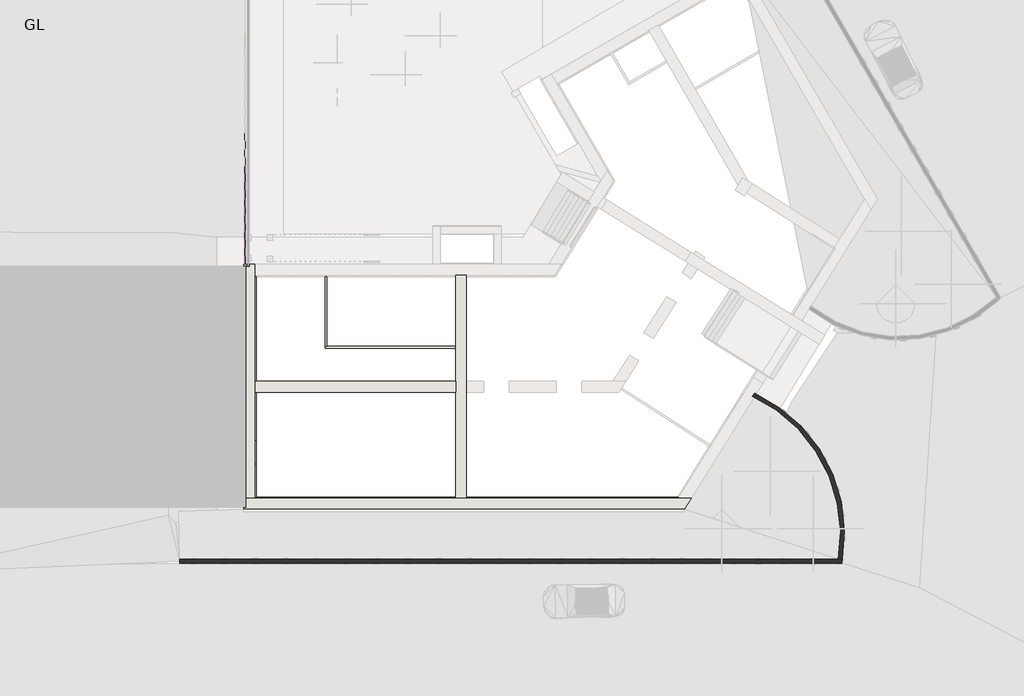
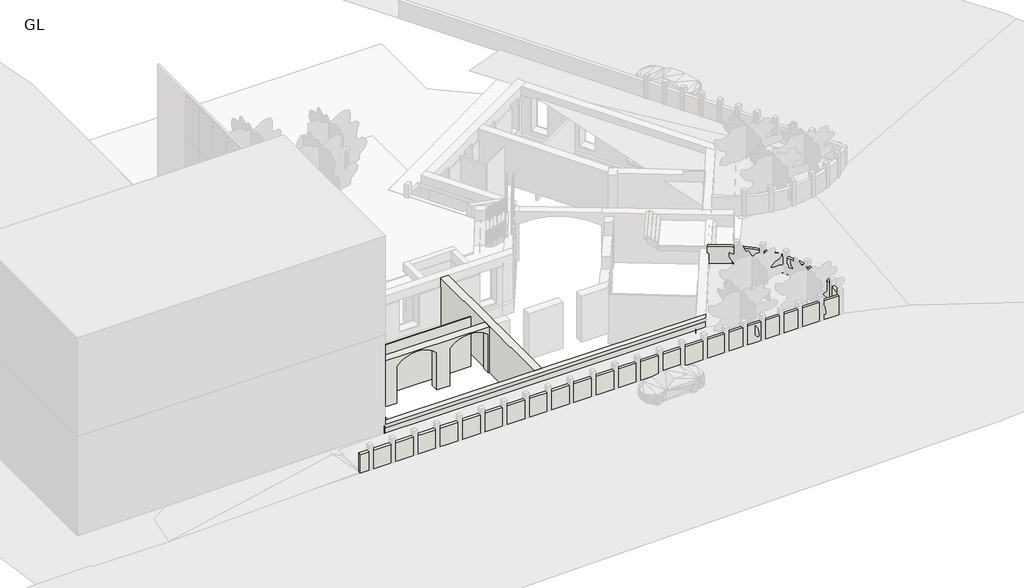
# One storey, part 1 of 6: 38 walls, 11 plates.
"""IFC4 building model written with IfcOpenShell, lengths in millimetres."""

from ifc_helpers import new_model, si_unit, point, frame, frame_2d, origin, place, context, project, spatial, polyline, circle_curve, trimmed, segment, composite_curve, outline, extrude, faceted_brep, transform, mapped, element, save
from ifc_brep_helpers import plane_surface, cylinder_surface, revolved_surface, advanced_brep
from components import system_panel_glazed_66cf68f7, system_panel_glazed_80cdc29d

model = new_model("IFC4")

# Units and contexts
model_context = context("Model", 3, world=origin())
ifc_project = project(units=[si_unit("LENGTHUNIT", "METRE", prefix="MILLI")], contexts=[model_context])

# Site, building, storey
site = spatial("IfcSite", under=ifc_project)
building = spatial("IfcBuilding", under=site)
storey = spatial("IfcBuildingStorey", under=building, Name="GL", Elevation=0.0)

# Plates
placement = place(None, origin())
system_panel_glazed_shape = system_panel_glazed_66cf68f7(model_context)
element("IfcPlate", 1, ObjectType="System Panel : Glazed", at=placement, inside=storey, context=model_context, shape_type="MappedRepresentation", body=[
    mapped(system_panel_glazed_shape, transform((-13331.6874983, 10505.0288256, 0.0), x_axis=(0.0, 1.0, 0.0), y_axis=(-1.0, 0.0, 0.0), z_axis=(0.0, 0.0, 1.0))),
])
element("IfcPlate", 2, ObjectType="System Panel : Glazed", at=placement, inside=storey, context=model_context, shape_type="MappedRepresentation", body=[
    mapped(system_panel_glazed_shape, transform((-13331.6874983, 12335.0288257, 0.0), x_axis=(0.0, 1.0, 0.0), y_axis=(-1.0, 0.0, 0.0), z_axis=(0.0, 0.0, 1.0))),
])
element("IfcPlate", 3, ObjectType="System Panel : Glazed", at=placement, inside=storey, context=model_context, shape_type="MappedRepresentation", body=[
    mapped(system_panel_glazed_shape, transform((-13331.6874983, 14165.0288257, 0.0), x_axis=(0.0, 1.0, 0.0), y_axis=(-1.0, 0.0, 0.0), z_axis=(0.0, 0.0, 1.0))),
])
element("IfcPlate", 4, ObjectType="System Panel : Glazed", at=placement, inside=storey, context=model_context, shape_type="MappedRepresentation", body=[
    mapped(system_panel_glazed_shape, transform((-13331.6874983, 15995.0288257, 0.0), x_axis=(0.0, 1.0, 0.0), y_axis=(-1.0, 0.0, 0.0), z_axis=(0.0, 0.0, 1.0))),
])
element("IfcPlate", 5, ObjectType="System Panel : Glazed", at=placement, inside=storey, context=model_context, shape_type="MappedRepresentation", body=[
    mapped(system_panel_glazed_shape, transform((-13331.6874983, 10505.0288256, 4000.0), x_axis=(0.0, 1.0, 0.0), y_axis=(-1.0, 0.0, 0.0), z_axis=(0.0, 0.0, 1.0))),
])
element("IfcPlate", 6, ObjectType="System Panel : Glazed", at=placement, inside=storey, context=model_context, shape_type="MappedRepresentation", body=[
    mapped(system_panel_glazed_shape, transform((-13331.6874983, 12335.0288257, 4000.0), x_axis=(0.0, 1.0, 0.0), y_axis=(-1.0, 0.0, 0.0), z_axis=(0.0, 0.0, 1.0))),
])
element("IfcPlate", 7, ObjectType="System Panel : Glazed", at=placement, inside=storey, context=model_context, shape_type="MappedRepresentation", body=[
    mapped(system_panel_glazed_shape, transform((-13331.6874983, 14165.0288257, 4000.0), x_axis=(0.0, 1.0, 0.0), y_axis=(-1.0, 0.0, 0.0), z_axis=(0.0, 0.0, 1.0))),
])
element("IfcPlate", 8, ObjectType="System Panel : Glazed", at=placement, inside=storey, context=model_context, shape_type="MappedRepresentation", body=[
    mapped(system_panel_glazed_shape, transform((-13331.6874983, 15995.0288257, 4000.0), x_axis=(0.0, 1.0, 0.0), y_axis=(-1.0, 0.0, 0.0), z_axis=(0.0, 0.0, 1.0))),
])
system_panel_glazed_2_shape = system_panel_glazed_80cdc29d(model_context)
element("IfcPlate", 9, ObjectType="System Panel : Glazed", at=placement, inside=storey, context=model_context, shape_type="MappedRepresentation", body=[
    mapped(system_panel_glazed_2_shape, transform((-13331.6874983, 10505.0288256, 8000.0), x_axis=(0.0, 1.0, 0.0), y_axis=(-1.0, 0.0, 0.0), z_axis=(0.0, 0.0, 1.0))),
])
element("IfcPlate", 10, ObjectType="System Panel : Glazed", at=placement, inside=storey, context=model_context, shape_type="MappedRepresentation", body=[
    mapped(system_panel_glazed_2_shape, transform((-13331.6874983, 12335.0288257, 8000.0), x_axis=(0.0, 1.0, 0.0), y_axis=(-1.0, 0.0, 0.0), z_axis=(0.0, 0.0, 1.0))),
])
element("IfcPlate", 11, ObjectType="System Panel : Glazed", at=placement, inside=storey, context=model_context, shape_type="MappedRepresentation", body=[
    mapped(system_panel_glazed_2_shape, transform((-13331.6874983, 14165.0288257, 8000.0), x_axis=(0.0, 1.0, 0.0), y_axis=(-1.0, 0.0, 0.0), z_axis=(0.0, 0.0, 1.0))),
])

# Walls
element("IfcWall", 12, ObjectType="Wall-Partn_12P-70MStd-12P", at=placement, inside=storey, context=model_context, shape_type="Brep", body=[
    faceted_brep([(-1676.9484639, 5037.5288254, -4000.0), (-8829.4484639, 5037.5288254, -4000.0), (-8924.4484639, 5037.5288254, -4000.0), (-8924.4484639, 5037.5288254, 0.0), (-8829.4484639, 5037.5288254, 0.0), (-1676.9484639, 5037.5288254, 0.0), (-1676.9484639, 4942.5288254, -4000.0), (-1676.9484639, 4942.5288254, 0.0), (-8924.4484639, 4942.5288254, 0.0), (-8924.4484639, 4942.5288254, -4000.0)], [[[0, 1, 2, 3, 4, 5]], [[6, 7, 8, 9]], [[2, 1, 0, 6, 9]], [[5, 4, 3, 8, 7]], [[0, 5, 7, 6]], [[3, 2, 9, 8]]]),
])
element("IfcWall", 13, ObjectType="Wall-Partn_12P-70MStd-12P", at=placement, inside=storey, context=model_context, shape_type="SweptSolid", body=[
    extrude(outline(polyline([(-8829.4484639, 8915.0288254), (-8829.4484639, 5037.5288254), (-8924.4484639, 5037.5288254), (-8924.4484639, 8915.0288254), (-8829.4484639, 8915.0288254)])), frame((0.0, 0.0, -4000.0), z_axis=(0.0, 0.0, 1.0), x_axis=(1.0, 0.0, 0.0)), (0.0, 0.0, 1.0), 4000.0),
])
element("IfcWall", 14, ObjectType="Wall-Ext_215Bwk", at=placement, inside=storey, context=model_context, shape_type="AdvancedBrep", body=[
    advanced_brep(
    [(19816.2961588, -6794.9711746, 0.0), (19598.2401866, -6794.9711746, 0.0), (-17011.6098081, -6794.9711746, 0.0), (-17011.6098081, -6794.9711746, 1500.0), (19598.2401866, -6794.9711746, 1500.0), (19816.2961588, -6794.9711746, 1500.0), (19777.5797429, -7009.9711746, 0.0), (19777.5797429, -7009.9711746, 1500.0), (-17011.6098081, -7009.9711746, 1500.0), (-17011.6098081, -7009.9711746, 0.0)],
    [
        (0, 1),
        (1, 2),
        (2, 3),
        (3, 4),
        (4, 5),
        (5, 0),
        (6, 7),
        (7, 8),
        (8, 9),
        (9, 6),
        (0, 6, circle_curve(frame((11316.4144317, -5375.3294287, 0.0), z_axis=(0.0, 0.0, -1.0), x_axis=(1.0, 0.0, 0.0)), 8617.6198605)),
        (9, 2),
        (8, 3),
        (7, 5, circle_curve(frame((11316.4144317, -5375.3294287, 1500.0), z_axis=(0.0, 0.0, 1.0), x_axis=(1.0, 0.0, 0.0)), 8617.6198605)),
    ],
    [
        plane_surface(frame((-13431.6874983, -6794.9711746, 0.0), z_axis=(0.0, 1.0, 0.0), x_axis=(-1.0, 0.0, 0.0))),
        plane_surface(frame((-13431.6874983, -7009.9711746, 0.0), z_axis=(0.0, -1.0, 0.0), x_axis=(1.0, 0.0, 0.0))),
        plane_surface(frame((19688.3901919, -6794.9711746, 0.0), z_axis=(0.0, 0.0, -1.0), x_axis=(0.0, -1.0, 0.0))),
        plane_surface(frame((-17011.6098081, -6794.9711746, 0.0), z_axis=(-1.0, 0.0, 0.0), x_axis=(0.0, -1.0, 0.0))),
        plane_surface(frame((-17011.6098081, -6794.9711746, 1500.0), z_axis=(0.0, 0.0, 1.0), x_axis=(0.0, -1.0, 0.0))),
        cylinder_surface(frame((11316.4144317, -5375.3294287, 0.0), z_axis=(0.0, 0.0, 1.0), x_axis=(1.0, 0.0, 0.0)), 8617.6198605),
    ],
    [
        (0, [[1, 2, 3, 4, 5, 6]]),
        (1, [[7, 8, 9, 10]]),
        (2, [[-2, -1, 11, -10, 12]]),
        (3, [[-3, -12, -9, 13]]),
        (4, [[-5, -4, -13, -8, 14]]),
        (5, [[-6, -14, -7, -11]]),
    ],
),
])
element("IfcWall", 15, ObjectType="Wall-Ext_215Bwk", at=placement, inside=storey, context=model_context, shape_type="AdvancedBrep", body=[
    advanced_brep(
    [(14823.3769203, 2260.4570157, 1500.0), (19598.2401866, -6794.9711746, 1500.0), (19816.2961588, -6794.9711746, 1500.0), (14937.9548596, 2444.3775345, 1500.0), (14914.6620726, 2217.8671601, 0.0), (15029.0778695, 2401.527408, 0.0), (19816.2961588, -6794.9711746, 0.0), (19598.2401866, -6794.9711746, 0.0), (14823.3769203, 2260.4570157, 1000.0), (14914.6620726, 2217.8671601, 1000.0), (15029.0778695, 2401.527408, 1000.0), (14937.9548596, 2444.3775345, 1000.0)],
    [
        (0, 1, circle_curve(frame((11316.4144317, -5375.3294287, 1500.0), z_axis=(0.0, 0.0, -1.0), x_axis=(1.0, 0.0, 0.0)), 8402.6198605)),
        (1, 2),
        (2, 3, circle_curve(frame((11316.4144317, -5375.3294287, 1500.0), z_axis=(0.0, 0.0, 1.0), x_axis=(1.0, 0.0, 0.0)), 8617.6198605)),
        (3, 0),
        (4, 5),
        (5, 6, circle_curve(frame((11316.4144317, -5375.3294287, 0.0), z_axis=(0.0, 0.0, -1.0), x_axis=(1.0, 0.0, 0.0)), 8617.6198605)),
        (6, 7),
        (7, 4, circle_curve(frame((11316.4144317, -5375.3294287, 0.0), z_axis=(0.0, 0.0, 1.0), x_axis=(1.0, 0.0, 0.0)), 8402.6198605)),
        (0, 8),
        (8, 9, circle_curve(frame((11316.4144317, -5375.3294287, 1000.0), z_axis=(0.0, 0.0, -1.0), x_axis=(1.0, 0.0, 0.0)), 8402.6198605)),
        (9, 4),
        (7, 1),
        (2, 6),
        (5, 10),
        (10, 11, circle_curve(frame((11316.4144317, -5375.3294287, 1000.0), z_axis=(0.0, 0.0, 1.0), x_axis=(1.0, 0.0, 0.0)), 8617.6198605)),
        (11, 3),
        (11, 8),
        (10, 9),
    ],
    [
        plane_surface(frame((19719.0342923, -5375.3294287, 1500.0), z_axis=(0.0, 0.0, 1.0), x_axis=(0.0, -1.0, 0.0))),
        plane_surface(frame((19719.0342923, -5375.3294287, 0.0), z_axis=(0.0, 0.0, -1.0), x_axis=(0.0, 1.0, 0.0))),
        revolved_surface(polyline([(19719.034292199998, -5375.3294287, 0.0), (19719.034292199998, -5375.3294287, 1500.0)]), (11316.4144317, -5375.3294287, 0.0), (0.0, 0.0, -1.0)),
        cylinder_surface(frame((11316.4144317, -5375.3294287, 0.0), z_axis=(0.0, 0.0, 1.0), x_axis=(1.0, 0.0, 0.0)), 8617.6198605),
        plane_surface(frame((-13431.6874983, -6794.9711746, 0.0), z_axis=(0.0, -1.0, 0.0), x_axis=(-1.0, 0.0, 0.0))),
        plane_surface(frame((21577.1081138, 13101.546953, 1000.0), z_axis=(-0.8487697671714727, 0.5287625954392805, 0.0), x_axis=(0.5287625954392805, 0.8487697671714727, 0.0))),
        plane_surface(frame((14739.0496248, 2533.4593784, 1000.0), z_axis=(0.0, 0.0, -1.0), x_axis=(1.0, 0.0, 0.0))),
        plane_surface(frame((21661.9850905, 13048.6706935, -3000.0), z_axis=(-0.8487697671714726, 0.5287625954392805, 0.0), x_axis=(0.5287625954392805, 0.8487697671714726, 0.0))),
    ],
    [
        (0, [[1, 2, 3, 4]]),
        (1, [[5, 6, 7, 8]]),
        (2, [[-1, 9, 10, 11, -8, 12]]),
        (3, [[-3, 13, -6, 14, 15, 16]]),
        (4, [[-2, -12, -7, -13]]),
        (5, [[-4, -16, 17, -9]]),
        (6, [[-17, -15, 18, -10]]),
        (7, [[-14, -5, -11, -18]]),
    ],
),
])
element("IfcWall", 16, ObjectType="Wall-Fnd_440Blk", at=placement, inside=storey, context=model_context, shape_type="Brep", body=[
    faceted_brep([(-15351.6874983, 5125.5548037, -4000.0), (-15351.6874983, 245.5548037, -4000.0), (-15351.6874983, 245.5548037, -3000.0), (-15351.6874983, 665.5548037, -3000.0), (-15351.6874983, 665.5548037, 0.0), (-15351.6874983, 4705.5548037, 0.0), (-15351.6874983, 4705.5548037, -3000.0), (-15351.6874983, 5125.5548037, -3000.0), (-14911.6874983, 5125.5548037, -4000.0), (-14911.6874983, 5125.5548037, -3000.0), (-14911.6874983, 4705.5548037, -3000.0), (-14911.6874983, 4705.5548037, 0.0), (-14911.6874983, 4685.5548037, 0.0), (-14911.6874983, 685.5548037, 0.0), (-14911.6874983, 665.5548037, 0.0), (-14911.6874983, 665.5548037, -3000.0), (-14911.6874983, 245.5548037, -3000.0), (-14911.6874983, 245.5548037, -4000.0), (-14911.6874983, 685.5548037, -4000.0), (-14911.6874983, 4685.5548037, -4000.0), (-15331.6874983, 4705.5548037, -3000.0), (-14931.6874983, 665.5548037, -3000.0)], [[[0, 1, 2, 3, 4, 5, 6, 7]], [[8, 9, 10, 11, 12, 13, 14, 15, 16, 17, 18, 19]], [[1, 0, 8, 19, 18, 17]], [[5, 4, 14, 13, 12, 11]], [[0, 7, 9, 8]], [[6, 5, 11, 10, 20]], [[2, 1, 17, 16]], [[4, 3, 21, 15, 14]], [[6, 20, 10, 9, 7]], [[15, 21, 3, 2, 16]]]),
])
element("IfcWall", 17, ObjectType="Wall-Fnd_440Blk", at=placement, inside=storey, context=model_context, shape_type="Brep", body=[
    faceted_brep([(-13506.6874983, 5125.5548037, 0.0), (-13506.6874983, 5125.5548037, -4000.0), (-14911.6874983, 5125.5548037, -4000.0), (-14911.6874983, 5125.5548037, -3000.0), (-14911.6874983, 5125.5548037, 0.0), (-13506.6874983, 4685.5548037, -4000.0), (-13506.6874983, 4685.5548037, 0.0), (-14911.6874983, 4685.5548037, 0.0), (-14911.6874983, 4685.5548037, -4000.0), (-14911.6874983, 4705.5548037, 0.0)], [[[0, 1, 2, 3, 4]], [[5, 6, 7, 8]], [[2, 1, 5, 8]], [[0, 4, 9, 7, 6]], [[2, 8, 7, 9, 4, 3]], [[0, 6, 5, 1]]]),
])
element("IfcWall", 18, ObjectType="Wall-Fnd_440Blk", at=placement, inside=storey, context=model_context, shape_type="Brep", body=[
    faceted_brep([(-14911.6874983, 245.5548037, 0.0), (-14911.6874983, 245.5548037, -3000.0), (-14911.6874983, 245.5548037, -4000.0), (-13506.6874983, 245.5548037, -4000.0), (-13506.6874983, 245.5548037, 0.0), (-14911.6874983, 685.5548037, -4000.0), (-14911.6874983, 685.5548037, 0.0), (-13506.6874983, 685.5548037, 0.0), (-13506.6874983, 685.5548037, -4000.0), (-14911.6874983, 665.5548037, 0.0)], [[[0, 1, 2, 3, 4]], [[5, 6, 7, 8]], [[3, 2, 5, 8]], [[0, 4, 7, 6, 9]], [[0, 9, 6, 5, 2, 1]], [[3, 8, 7, 4]]]),
])
element("IfcWall", 19, ObjectType="Wall-Fnd_750Con_Footing", at=placement, inside=storey, context=model_context, shape_type="Brep", body=[
    faceted_brep([(-12756.6874983, -3409.9711746, 0.0), (-12756.6874983, -3409.9711746, -3000.0), (-12756.6874983, -3334.9711746, -3000.0), (-12756.6874983, 8915.0288254, -3000.0), (-12756.6874983, 8915.0288254, 0.0), (-12756.6874983, -180.0075757, 0.0), (-12756.6874983, -180.0075757, -2563.5569575), (-12756.6874983, -1511.3703175, -2563.5569575), (-12756.6874983, -1511.3703175, 0.0), (-12756.6874983, -3334.9711746, 0.0), (-13506.6874983, -3409.9711746, -3000.0), (-13506.6874983, -3409.9711746, 0.0), (-13506.6874983, -1511.3703175, 0.0), (-13506.6874983, -1511.3703175, -2563.5569575), (-13506.6874983, -180.0075757, -2563.5569575), (-13506.6874983, -180.0075757, 0.0), (-13506.6874983, 8915.0288254, 0.0), (-13506.6874983, 8915.0288254, -3000.0), (-12831.6874983, 8915.0288254, 0.0), (-12831.6874983, 8915.0288254, -3000.0)], [[[0, 1, 2, 3, 4, 5, 6, 7, 8, 9]], [[10, 11, 12, 13, 14, 15, 16, 17]], [[11, 0, 9, 8, 12]], [[4, 18, 16, 15, 5]], [[16, 18, 4, 3, 19, 17]], [[0, 11, 10, 1]], [[3, 2, 1, 10, 17, 19]], [[6, 14, 13, 7]], [[7, 13, 12, 8]], [[14, 6, 5, 15]]]),
    faceted_brep([(-12756.6874983, -4084.9711746, -4000.0), (-12756.6874983, -3334.9711746, -4000.0), (-12756.6874983, 8915.0288254, -4000.0), (-12756.6874983, 8915.0288254, -3140.0), (-12756.6874983, -4084.9711746, -3140.0), (-12756.6874983, -4084.9711746, -3470.0), (-13506.6874983, 8915.0288254, -4000.0), (-13506.6874983, -4084.9711746, -4000.0), (-13506.6874983, -4084.9711746, -3140.0), (-13506.6874983, 8915.0288254, -3140.0)], [[[0, 1, 2, 3, 4, 5]], [[6, 7, 8, 9]], [[2, 1, 0, 7, 6]], [[2, 6, 9, 3]], [[7, 0, 5, 4, 8]], [[4, 3, 9, 8]]]),
])
element("IfcWall", 20, ObjectType="Wall-Fnd_750Con_Footing", at=placement, inside=storey, context=model_context, shape_type="Brep", body=[
    faceted_brep([(-12756.6874983, -4084.9711746, -4000.0), (11076.5126916, -4084.9711746, -4000.0), (11076.5126916, -4084.9711746, -3140.0), (-12756.6874983, -4084.9711746, -3140.0), (11543.7441623, -3334.9711746, -4000.0), (10660.1123118, -3334.9711746, -4000.0), (-12756.6874983, -3334.9711746, -4000.0), (-12756.6874983, -3334.9711746, -3140.0), (10660.1123118, -3334.9711746, -3140.0), (11543.7441623, -3334.9711746, -3140.0)], [[[0, 1, 2, 3]], [[4, 5, 6, 7, 8, 9]], [[1, 0, 6, 5, 4]], [[6, 0, 3, 7]], [[1, 4, 9, 2]], [[3, 2, 9, 8, 7]]]),
    faceted_brep([(10281.2440261, -4084.9711746, -3000.0), (10281.2440261, -4084.9711746, 0.0), (9391.855547, -4084.9711746, 0.0), (9391.855547, -4084.9711746, -2514.60206), (8031.855547, -4084.9711746, -2514.60206), (8031.855547, -4084.9711746, 0.0), (5391.855547, -4084.9711746, 0.0), (5391.855547, -4084.9711746, -2514.60206), (4031.855547, -4084.9711746, -2514.60206), (4031.855547, -4084.9711746, 0.0), (1339.355547, -4084.9711746, 0.0), (1339.355547, -4084.9711746, -2514.5552751), (-20.644453, -4084.9711746, -2514.5552751), (-20.644453, -4084.9711746, 0.0), (-2603.144453, -4084.9711746, 0.0), (-2603.144453, -4084.9711746, -2514.60206), (-3963.144453, -4084.9711746, -2514.60206), (-3963.144453, -4084.9711746, 0.0), (-6603.144453, -4084.9711746, 0.0), (-6603.144453, -4084.9711746, -2514.60206), (-7963.144453, -4084.9711746, -2514.60206), (-7963.144453, -4084.9711746, 0.0), (-10703.144453, -4084.9711746, 0.0), (-10703.144453, -4084.9711746, -2514.60206), (-12063.144453, -4084.9711746, -2514.60206), (-12063.144453, -4084.9711746, 0.0), (-12756.6874983, -4084.9711746, 0.0), (-12756.6874983, -4084.9711746, -3000.0), (10748.4754968, -3334.9711746, 0.0), (10748.4754968, -3334.9711746, -3000.0), (10660.1123118, -3334.9711746, -3000.0), (-12756.6874983, -3334.9711746, -3000.0), (-12756.6874983, -3334.9711746, 0.0), (-12063.144453, -3334.9711746, 0.0), (-12063.144453, -3334.9711746, -2514.60206), (-10703.144453, -3334.9711746, -2514.60206), (-10703.144453, -3334.9711746, 0.0), (-7963.144453, -3334.9711746, 0.0), (-7963.144453, -3334.9711746, -2514.60206), (-6603.144453, -3334.9711746, -2514.60206), (-6603.144453, -3334.9711746, 0.0), (-3963.144453, -3334.9711746, 0.0), (-3963.144453, -3334.9711746, -2514.60206), (-2603.144453, -3334.9711746, -2514.60206), (-2603.144453, -3334.9711746, 0.0), (-20.644453, -3334.9711746, 0.0), (-20.644453, -3334.9711746, -2514.5552751), (1339.355547, -3334.9711746, -2514.5552751), (1339.355547, -3334.9711746, 0.0), (4031.855547, -3334.9711746, 0.0), (4031.855547, -3334.9711746, -2514.60206), (5391.855547, -3334.9711746, -2514.60206), (5391.855547, -3334.9711746, 0.0), (8031.855547, -3334.9711746, 0.0), (8031.855547, -3334.9711746, -2514.60206), (9391.855547, -3334.9711746, -2514.60206), (9391.855547, -3334.9711746, 0.0), (10660.1123118, -3334.9711746, 0.0), (-12756.6874983, -3409.9711746, 0.0), (-12756.6874983, -3409.9711746, -3000.0)], [[[0, 1, 2, 3, 4, 5, 6, 7, 8, 9, 10, 11, 12, 13, 14, 15, 16, 17, 18, 19, 20, 21, 22, 23, 24, 25, 26, 27]], [[28, 29, 30, 31, 32, 33, 34, 35, 36, 37, 38, 39, 40, 41, 42, 43, 44, 45, 46, 47, 48, 49, 50, 51, 52, 53, 54, 55, 56, 57]], [[1, 28, 57, 56, 2]], [[32, 58, 26, 25, 33]], [[36, 22, 21, 37]], [[40, 18, 17, 41]], [[44, 14, 13, 45]], [[48, 10, 9, 49]], [[52, 6, 5, 53]], [[26, 58, 32, 31, 59, 27]], [[28, 1, 0, 29]], [[0, 27, 59, 31, 30, 29]], [[23, 35, 34, 24]], [[24, 34, 33, 25]], [[35, 23, 22, 36]], [[19, 39, 38, 20]], [[20, 38, 37, 21]], [[39, 19, 18, 40]], [[15, 43, 42, 16]], [[16, 42, 41, 17]], [[43, 15, 14, 44]], [[11, 47, 46, 12]], [[12, 46, 45, 13]], [[47, 11, 10, 48]], [[7, 51, 50, 8]], [[8, 50, 49, 9]], [[51, 7, 6, 52]], [[3, 55, 54, 4]], [[4, 54, 53, 5]], [[55, 3, 2, 56]]]),
])
element("IfcWall", 21, ObjectType="Wall-Ret_300Con", at=placement, inside=storey, context=model_context, shape_type="SweptSolid", body=[
    extrude(outline(polyline([(265.1650429, 0.0), (265.1650429, -2955.181207), (-2245.2063999, -2955.181207), (-157.926988, -298.5082395), (0.0, 0.0), (265.1650429, 0.0)])), frame((-13213.1214811, -4003.5371918, -3000.0), z_axis=(-0.7071067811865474, 0.7071067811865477, 0.0), x_axis=(0.7071067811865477, 0.7071067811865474, 0.0)), (0.0, 0.0, 1.0), 300.0),
])
element("IfcWall", 22, ObjectType="Wall-Ret_300Con", at=placement, inside=storey, context=model_context, shape_type="SweptSolid", body=[
    extrude(outline(polyline([(-130.7145064, 0.0), (71.7610425, 0.0), (1884.0512432, -2962.0277078), (-130.7145064, -2962.0277078), (-130.7145064, 0.0)])), frame((10757.6268537, -3905.953484, -3000.0), z_axis=(0.7771459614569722, 0.6293203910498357, 0.0), x_axis=(0.6293203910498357, -0.7771459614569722, 0.0)), (0.0, 0.0, 1.0), 300.0),
])
element("IfcWall", 23, ObjectType="Wall-Ret_300Con", at=placement, inside=storey, context=model_context, shape_type="SweptSolid", body=[
    extrude(outline(polyline([(424.2640687, 0.0), (424.2640687, -2785.1), (-1925.5395707, -2785.1), (-1925.5395707, -2019.3040569), (93.7644862, 0.0), (424.2640687, 0.0)])), frame((-13537.7535155, 9483.9628082, -2785.1), z_axis=(0.7071067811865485, 0.7071067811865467, 0.0), x_axis=(0.7071067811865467, -0.7071067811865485, 0.0)), (0.0, 0.0, 1.0), 300.0),
])
element("IfcWall", 24, ObjectType="Wall-Ret_300Con 2", at=placement, inside=storey, context=model_context, shape_type="SweptSolid", body=[
    extrude(outline(polyline([(-3099.449784, -13131.6874983), (0.0, -13131.6874983), (0.0, -14931.6874983), (-3099.449784, -13209.7709517), (-3099.449784, -13131.6874983)])), frame((0.0, -2309.9711746, 0.0), z_axis=(0.0, 1.0, 0.0), x_axis=(0.0, 0.0, 1.0)), (0.0, 0.0, 1.0), 200.0),
])
element("IfcWall", 25, ObjectType="Wall-Ret_300Con 2", at=placement, inside=storey, context=model_context, shape_type="SweptSolid", body=[
    extrude(outline(polyline([(-3709.9711746, -2759.9064302), (-3976.6898245, -2759.9064302), (-5509.9711746, 0.0), (-3709.9711746, 0.0), (-3709.9711746, -2759.9064302)])), frame((-12561.6874983, 0.0, 0.0), z_axis=(1.0, 0.0, 0.0), x_axis=(0.0, 1.0, 0.0)), (0.0, 0.0, 1.0), 200.0),
])
element("IfcWall", 26, ObjectType="Wall-Ret_300Con 2", at=placement, inside=storey, context=model_context, shape_type="SweptSolid", body=[
    extrude(outline(polyline([(-3709.9711746, -2759.9064302), (-3976.6898245, -2759.9064302), (-5509.9711746, 0.0), (-3709.9711746, 0.0), (-3709.9711746, -2759.9064302)])), frame((-10341.6874983, 0.0, 0.0), z_axis=(1.0, 0.0, 0.0), x_axis=(0.0, 1.0, 0.0)), (0.0, 0.0, 1.0), 200.0),
])
element("IfcWall", 27, ObjectType="Wall-Ret_300Con 2", at=placement, inside=storey, context=model_context, shape_type="SweptSolid", body=[
    extrude(outline(polyline([(-3709.9711746, -2759.9064302), (-3976.6898245, -2759.9064302), (-5509.9711746, 0.0), (-3709.9711746, 0.0), (-3709.9711746, -2759.9064302)])), frame((-8461.6874983, 0.0, 0.0), z_axis=(1.0, 0.0, 0.0), x_axis=(0.0, 1.0, 0.0)), (0.0, 0.0, 1.0), 200.0),
])
element("IfcWall", 28, ObjectType="Wall-Ret_300Con 2", at=placement, inside=storey, context=model_context, shape_type="SweptSolid", body=[
    extrude(outline(polyline([(-3709.9711746, -2759.9064302), (-3976.6898245, -2759.9064302), (-5509.9711746, 0.0), (-3709.9711746, 0.0), (-3709.9711746, -2759.9064302)])), frame((-6221.6874983, 0.0, 0.0), z_axis=(1.0, 0.0, 0.0), x_axis=(0.0, 1.0, 0.0)), (0.0, 0.0, 1.0), 200.0),
])
element("IfcWall", 29, ObjectType="Wall-Ret_300Con 2", at=placement, inside=storey, context=model_context, shape_type="SweptSolid", body=[
    extrude(outline(polyline([(-3709.9711746, -2759.9064302), (-3976.6898245, -2759.9064302), (-5509.9711746, 0.0), (-3709.9711746, 0.0), (-3709.9711746, -2759.9064302)])), frame((-4461.6874983, 0.0, 0.0), z_axis=(1.0, 0.0, 0.0), x_axis=(0.0, 1.0, 0.0)), (0.0, 0.0, 1.0), 200.0),
])
element("IfcWall", 30, ObjectType="Wall-Ret_300Con 2", at=placement, inside=storey, context=model_context, shape_type="SweptSolid", body=[
    extrude(outline(polyline([(-3709.9711746, -2759.9064302), (-3976.6898245, -2759.9064302), (-5509.9711746, 0.0), (-3709.9711746, 0.0), (-3709.9711746, -2759.9064302)])), frame((-2301.6874983, 0.0, 0.0), z_axis=(1.0, 0.0, 0.0), x_axis=(0.0, 1.0, 0.0)), (0.0, 0.0, 1.0), 200.0),
])
element("IfcWall", 31, ObjectType="Wall-Ret_300Con 2", at=placement, inside=storey, context=model_context, shape_type="SweptSolid", body=[
    extrude(outline(polyline([(-3709.9711746, -2759.9064302), (-3976.6898245, -2759.9064302), (-5509.9711746, 0.0), (-3709.9711746, 0.0), (-3709.9711746, -2759.9064302)])), frame((-501.6874983, 0.0, 0.0), z_axis=(1.0, 0.0, 0.0), x_axis=(0.0, 1.0, 0.0)), (0.0, 0.0, 1.0), 200.0),
])
element("IfcWall", 32, ObjectType="Wall-Ret_300Con 2", at=placement, inside=storey, context=model_context, shape_type="SweptSolid", body=[
    extrude(outline(polyline([(-3709.9711746, -2759.9064302), (-3976.6898245, -2759.9064302), (-5509.9711746, 0.0), (-3709.9711746, 0.0), (-3709.9711746, -2759.9064302)])), frame((1753.3125017, 0.0, 0.0), z_axis=(1.0, 0.0, 0.0), x_axis=(0.0, 1.0, 0.0)), (0.0, 0.0, 1.0), 200.0),
])
element("IfcWall", 33, ObjectType="Wall-Ret_300Con 2", at=placement, inside=storey, context=model_context, shape_type="SweptSolid", body=[
    extrude(outline(polyline([(-3709.9711746, -2759.9064302), (-3976.6898245, -2759.9064302), (-5509.9711746, 0.0), (-3709.9711746, 0.0), (-3709.9711746, -2759.9064302)])), frame((3533.3125017, 0.0, 0.0), z_axis=(1.0, 0.0, 0.0), x_axis=(0.0, 1.0, 0.0)), (0.0, 0.0, 1.0), 200.0),
])
element("IfcWall", 34, ObjectType="Wall-Ret_300Con 2", at=placement, inside=storey, context=model_context, shape_type="SweptSolid", body=[
    extrude(outline(polyline([(-3709.9711746, -2759.9064302), (-3976.6898245, -2759.9064302), (-5509.9711746, 0.0), (-3709.9711746, 0.0), (-3709.9711746, -2759.9064302)])), frame((5693.3125017, 0.0, 0.0), z_axis=(1.0, 0.0, 0.0), x_axis=(0.0, 1.0, 0.0)), (0.0, 0.0, 1.0), 200.0),
])
element("IfcWall", 35, ObjectType="Wall-Ret_300Con 2", at=placement, inside=storey, context=model_context, shape_type="SweptSolid", body=[
    extrude(outline(polyline([(-3709.9711746, -2759.9064302), (-3976.6898245, -2759.9064302), (-5509.9711746, 0.0), (-3709.9711746, 0.0), (-3709.9711746, -2759.9064302)])), frame((7533.3125017, 0.0, 0.0), z_axis=(1.0, 0.0, 0.0), x_axis=(0.0, 1.0, 0.0)), (0.0, 0.0, 1.0), 200.0),
])
element("IfcWall", 36, ObjectType="Wall-Ret_300Con 2", at=placement, inside=storey, context=model_context, shape_type="SweptSolid", body=[
    extrude(outline(polyline([(-3709.9711746, -2759.9064302), (-3976.6898245, -2759.9064302), (-5509.9711746, 0.0), (-3709.9711746, 0.0), (-3709.9711746, -2759.9064302)])), frame((9753.3125017, 0.0, 0.0), z_axis=(1.0, 0.0, 0.0), x_axis=(0.0, 1.0, 0.0)), (0.0, 0.0, 1.0), 200.0),
])
element("IfcWall", 37, ObjectType="Wall-Ret_300Con 2", at=placement, inside=storey, context=model_context, shape_type="SweptSolid", body=[
    extrude(outline(polyline([(0.0, 0.0), (127.5767264, 0.0), (1805.126083, -2918.7753864), (0.0, -2918.7753864), (0.0, 0.0)])), frame((11336.937646, -2957.7340495, -3000.0), z_axis=(0.5287625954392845, 0.8487697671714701, 0.0), x_axis=(0.8487697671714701, -0.5287625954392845, 0.0)), (0.0, 0.0, 1.0), 200.0),
])
element("IfcWall", 38, ObjectType="Wall-Ret_300Con 2", at=placement, inside=storey, context=model_context, shape_type="SweptSolid", body=[
    extrude(outline(polyline([(0.0, 0.0), (241.4453982, 0.0), (1764.5565704, -2650.0677208), (0.0, -2650.0677208), (0.0, 0.0)])), frame((12500.215356, -1090.4405617, -2801.8794051), z_axis=(0.5287625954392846, 0.8487697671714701, 0.0), x_axis=(0.8487697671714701, -0.5287625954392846, 0.0)), (0.0, 0.0, 1.0), 200.0),
])
element("IfcWall", 39, ObjectType="Wall-Ret_300Con 2", at=placement, inside=storey, context=model_context, shape_type="SweptSolid", body=[
    extrude(outline(polyline([(-2785.1, -13131.6874983), (0.0, -13131.6874983), (0.0, -14431.6874983), (-2785.1, -13400.1689798), (-2785.1, -13131.6874983)])), frame((0.0, 7490.0288254, 0.0), z_axis=(0.0, 1.0, 0.0), x_axis=(0.0, 0.0, 1.0)), (0.0, 0.0, 1.0), 200.0),
])
element("IfcWall", 40, ObjectType="Wall-Ret_300Con 2", at=placement, inside=storey, context=model_context, shape_type="SweptSolid", body=[
    extrude(outline(polyline([(9290.0288254, -2785.1), (9290.0288254, 0.0), (11090.0288254, 0.0), (9542.7510476, -2785.1), (9290.0288254, -2785.1)])), frame((-12491.6874983, 0.0, 0.0), z_axis=(1.0, 0.0, 0.0), x_axis=(0.0, 1.0, 0.0)), (0.0, 0.0, 1.0), 200.0),
])
element("IfcWall", 41, ObjectType="Wall-Ret_300Con 2", at=placement, inside=storey, context=model_context, shape_type="SweptSolid", body=[
    extrude(outline(polyline([(9290.0288254, -2785.1), (9290.0288254, 0.0), (11090.0288254, 0.0), (9542.7510476, -2785.1), (9290.0288254, -2785.1)])), frame((-10331.6874983, 0.0, 0.0), z_axis=(1.0, 0.0, 0.0), x_axis=(0.0, 1.0, 0.0)), (0.0, 0.0, 1.0), 200.0),
])
element("IfcWall", 42, ObjectType="Wall-Ret_300Con 2", at=placement, inside=storey, context=model_context, shape_type="SweptSolid", body=[
    extrude(outline(polyline([(9290.0288254, -2785.1), (9290.0288254, 0.0), (11090.0288254, 0.0), (9542.7510476, -2785.1), (9290.0288254, -2785.1)])), frame((-9058.3506094, 0.0, 0.0), z_axis=(1.0, 0.0, 0.0), x_axis=(0.0, 1.0, 0.0)), (0.0, 0.0, 1.0), 200.0),
])
element("IfcWall", 43, ObjectType="ug wall", at=placement, inside=storey, context=model_context, shape_type="Brep", body=[
    faceted_brep([(-13431.6874983, -4009.9711746, -3000.0), (11034.8726536, -4009.9711746, -3000.0), (11034.8726536, -4009.9711746, 700.0), (-13431.6874983, -4009.9711746, 700.0), (-12131.6874983, -4009.9711746, 0.0), (-10620.4043179, -4009.9711746, 0.0), (-10620.4043179, -4009.9711746, -2555.3862334), (-12131.6874983, -4009.9711746, -2555.3862334), (-8031.6874983, -4009.9711746, 0.0), (-6520.4043179, -4009.9711746, 0.0), (-6520.4043179, -4009.9711746, -2555.3862334), (-8031.6874983, -4009.9711746, -2555.3862334), (-4031.6874983, -4009.9711746, 0.0), (-2520.4043179, -4009.9711746, 0.0), (-2520.4043179, -4009.9711746, -2555.3862334), (-4031.6874983, -4009.9711746, -2555.3862334), (-71.6874983, -4009.9711746, 0.0), (1439.5956821, -4009.9711746, 0.0), (1439.5956821, -4009.9711746, -2555.3862334), (-71.6874983, -4009.9711746, -2555.3862334), (3963.3125017, -4009.9711746, 0.0), (5474.5956821, -4009.9711746, 0.0), (5474.5956821, -4009.9711746, -2555.3862334), (3963.3125017, -4009.9711746, -2555.3862334), (7963.3125017, -4009.9711746, 0.0), (9474.5956821, -4009.9711746, 0.0), (9474.5956821, -4009.9711746, -2555.3862334), (7963.3125017, -4009.9711746, -2555.3862334), (11408.6578301, -3409.9711746, -3000.0), (10701.7523498, -3409.9711746, -3000.0), (-12831.6874983, -3409.9711746, -3000.0), (-13431.6874983, -3409.9711746, -3000.0), (-13431.6874983, -3409.9711746, 700.0), (-12831.6874983, -3409.9711746, 700.0), (-1676.9484639, -3409.9711746, 700.0), (-1076.9484639, -3409.9711746, 700.0), (10701.7523498, -3409.9711746, 700.0), (11408.6578301, -3409.9711746, 700.0), (-10620.4043179, -3409.9711746, 0.0), (-12131.6874983, -3409.9711746, 0.0), (-12131.6874983, -3409.9711746, -2555.3862334), (-10620.4043179, -3409.9711746, -2555.3862334), (-6520.4043179, -3409.9711746, 0.0), (-8031.6874983, -3409.9711746, 0.0), (-8031.6874983, -3409.9711746, -2555.3862334), (-6520.4043179, -3409.9711746, -2555.3862334), (-2520.4043179, -3409.9711746, 0.0), (-4031.6874983, -3409.9711746, 0.0), (-4031.6874983, -3409.9711746, -2555.3862334), (-2520.4043179, -3409.9711746, -2555.3862334), (1439.5956821, -3409.9711746, 0.0), (-71.6874983, -3409.9711746, 0.0), (-71.6874983, -3409.9711746, -2555.3862334), (1439.5956821, -3409.9711746, -2555.3862334), (5474.5956821, -3409.9711746, 0.0), (3963.3125017, -3409.9711746, 0.0), (3963.3125017, -3409.9711746, -2555.3862334), (5474.5956821, -3409.9711746, -2555.3862334), (9474.5956821, -3409.9711746, 0.0), (7963.3125017, -3409.9711746, 0.0), (7963.3125017, -3409.9711746, -2555.3862334), (9474.5956821, -3409.9711746, -2555.3862334)], [[[0, 1, 2, 3], [4, 5, 6, 7], [8, 9, 10, 11], [12, 13, 14, 15], [16, 17, 18, 19], [20, 21, 22, 23], [24, 25, 26, 27]], [[28, 29, 30, 31, 32, 33, 34, 35, 36, 37], [38, 39, 40, 41], [42, 43, 44, 45], [46, 47, 48, 49], [50, 51, 52, 53], [54, 55, 56, 57], [58, 59, 60, 61]], [[1, 0, 31, 30, 29, 28]], [[31, 0, 3, 32]], [[1, 28, 37, 2]], [[4, 39, 38, 5]], [[6, 41, 40, 7]], [[39, 4, 7, 40]], [[5, 38, 41, 6]], [[8, 43, 42, 9]], [[10, 45, 44, 11]], [[43, 8, 11, 44]], [[9, 42, 45, 10]], [[12, 47, 46, 13]], [[14, 49, 48, 15]], [[47, 12, 15, 48]], [[13, 46, 49, 14]], [[16, 51, 50, 17]], [[18, 53, 52, 19]], [[51, 16, 19, 52]], [[17, 50, 53, 18]], [[20, 55, 54, 21]], [[22, 57, 56, 23]], [[55, 20, 23, 56]], [[21, 54, 57, 22]], [[24, 59, 58, 25]], [[26, 61, 60, 27]], [[59, 24, 27, 60]], [[25, 58, 61, 26]], [[3, 2, 37, 36, 35, 34, 33, 32]]]),
])
element("IfcWall", 44, ObjectType="ug wall", at=placement, inside=storey, context=model_context, shape_type="Brep", body=[
    faceted_brep([(-12831.6874983, -3409.9711746, -3000.0), (-12831.6874983, 8990.0288254, -3000.0), (-12831.6874983, 9590.0288254, -3000.0), (-12831.6874983, 9590.0288254, 700.0), (-12831.6874983, 8990.0288254, 700.0), (-12831.6874983, -3409.9711746, 700.0), (-12831.6874983, -1640.3856596, 45.2157525), (-12831.6874983, -35.4207394, 45.2157525), (-12831.6874983, -35.4207394, -2510.8297101), (-12831.6874983, -1640.3856596, -2510.8297101), (-13431.6874983, 9590.0288254, -3000.0), (-13431.6874983, -3409.9711746, -3000.0), (-13431.6874983, -3409.9711746, 700.0), (-13431.6874983, 265.617935, 700.0), (-13431.6874983, 665.5548037, 700.0), (-13431.6874983, 4705.5548037, 700.0), (-13431.6874983, 5105.5548037, 700.0), (-13431.6874983, 9590.0288254, 700.0), (-13431.6874983, -35.4207394, 45.2157525), (-13431.6874983, -1640.3856596, 45.2157525), (-13431.6874983, -1640.3856596, -2510.8297101), (-13431.6874983, -35.4207394, -2510.8297101)], [[[0, 1, 2, 3, 4, 5], [6, 7, 8, 9]], [[10, 11, 12, 13, 14, 15, 16, 17], [18, 19, 20, 21]], [[2, 1, 0, 11, 10]], [[2, 10, 17, 3]], [[11, 0, 5, 12]], [[6, 19, 18, 7]], [[8, 21, 20, 9]], [[19, 6, 9, 20]], [[7, 18, 21, 8]], [[5, 4, 3, 17, 16, 15, 14, 13, 12]]]),
])
element("IfcWall", 45, ObjectType="ug wall", at=placement, inside=storey, context=model_context, shape_type="Brep", body=[
    faceted_brep([(-1676.9484639, 8915.0288254, -3000.0), (-1676.9484639, -3334.9711746, -3000.0), (-1676.9484639, -3334.9711746, 0.0), (-1676.9484639, -3409.9711746, 0.0), (-1676.9484639, -3409.9711746, 700.0), (-1676.9484639, 8990.0288254, 700.0), (-1676.9484639, 8990.0288254, 0.0), (-1676.9484639, 8915.0288254, 0.0), (-1076.9484639, 8915.0288254, -3000.0), (-1076.9484639, 8915.0288254, 0.0), (-1076.9484639, 8990.0288254, 0.0), (-1076.9484639, 8990.0288254, 700.0), (-1076.9484639, 3090.0288254, 700.0), (-1076.9484639, 2490.0288254, 700.0), (-1076.9484639, -3409.9711746, 700.0), (-1076.9484639, -3409.9711746, 0.0), (-1076.9484639, -3334.9711746, 0.0), (-1076.9484639, -3334.9711746, -3000.0), (-1076.9484639, 2490.0288254, -3000.0), (-1076.9484639, 3090.0288254, -3000.0)], [[[0, 1, 2, 3, 4, 5, 6, 7]], [[8, 9, 10, 11, 12, 13, 14, 15, 16, 17, 18, 19]], [[1, 0, 8, 19, 18, 17]], [[15, 3, 2, 16]], [[2, 1, 17, 16]], [[4, 3, 15, 14]], [[6, 10, 9, 7]], [[0, 7, 9, 8]], [[6, 5, 11, 10]], [[5, 4, 14, 13, 12, 11]]]),
])
element("IfcWall", 46, ObjectType="ug wall", at=placement, inside=storey, context=model_context, shape_type="SweptSolid", body=[
    extrude(outline(composite_curve([segment(polyline([(-3000.0, -8771.6874983), (0.0, -8771.6874983)]), True, "CONTINUOUS"), segment(trimmed(circle_curve(frame_2d((-1493.6065546, -7231.6874983)), 2145.3345986), [point((0.0, -8771.6874983))], [point((0.0, -5691.6874983))], True, "CARTESIAN"), True, "CONTINUOUS"), segment(polyline([(0.0, -5691.6874983), (-3000.0, -5691.6874983), (-3000.0, -4711.6874983), (0.0, -4711.6874983)]), True, "CONTINUOUS"), segment(trimmed(circle_curve(frame_2d((-1493.6065546, -3171.6874983)), 2145.3345986), [point((0.0, -4711.6874983))], [point((129.8016781, -1769.1874983))], True, "CARTESIAN"), True, "CONTINUOUS"), segment(polyline([(129.8016781, -1769.1874983), (-3000.0, -1769.1874983), (-3000.0, -1676.9484639), (700.0, -1676.9484639), (700.0, -12831.6874983), (-3005.0, -12831.6874983), (-3005.0, -12755.2222662), (75.0, -12755.2222662)]), True, "CONTINUOUS"), segment(trimmed(circle_curve(frame_2d((-1493.6065546, -11291.6874983)), 2145.3345986), [point((75.0, -12755.2222662))], [point((0.0, -9751.6874983))], True, "CARTESIAN"), True, "CONTINUOUS"), segment(polyline([(0.0, -9751.6874983), (-3000.0, -9751.6874983), (-3000.0, -8771.6874983)]), True, "CONTINUOUS")], self_intersect=False)), frame((0.0, 2490.0288254, 0.0), z_axis=(0.0, 1.0, 0.0), x_axis=(0.0, 0.0, 1.0)), (0.0, 0.0, 1.0), 600.0),
])
element("IfcWall", 47, ObjectType="ug wall 2", at=placement, inside=storey, context=model_context, shape_type="Brep", body=[
    faceted_brep([(-13506.6874983, 5105.5548037, -3000.0), (-15331.6874983, 5105.5548037, -3000.0), (-15331.6874983, 5105.5548037, 700.0), (-13431.6874983, 5105.5548037, 700.0), (-13431.6874983, 5105.5548037, 0.0), (-13506.6874983, 5105.5548037, 0.0), (-15331.6874983, 4705.5548037, -3000.0), (-14931.6874983, 4705.5548037, -3000.0), (-14911.6874983, 4705.5548037, -3000.0), (-13506.6874983, 4705.5548037, -3000.0), (-13506.6874983, 4705.5548037, 0.0), (-13431.6874983, 4705.5548037, 0.0), (-13431.6874983, 4705.5548037, 700.0), (-14931.6874983, 4705.5548037, 700.0), (-15331.6874983, 4705.5548037, 700.0)], [[[0, 1, 2, 3, 4, 5]], [[6, 7, 8, 9, 10, 11, 12, 13, 14]], [[1, 0, 9, 8, 7, 6]], [[11, 10, 5, 4]], [[9, 0, 5, 10]], [[11, 4, 3, 12]], [[1, 6, 14, 2]], [[3, 2, 14, 13, 12]]]),
])
element("IfcWall", 48, ObjectType="ug wall 2", at=placement, inside=storey, context=model_context, shape_type="Brep", body=[
    faceted_brep([(-15331.6874983, 4705.5548037, -3000.0), (-15331.6874983, 265.5548037, -3000.0), (-15331.6874983, 265.5548037, 700.0), (-15331.6874983, 4705.5548037, 700.0), (-14931.6874983, 265.5548037, -3000.0), (-14931.6874983, 665.5548037, -3000.0), (-14931.6874983, 4705.5548037, -3000.0), (-14931.6874983, 4705.5548037, 700.0), (-14931.6874983, 265.5548037, 700.0)], [[[0, 1, 2, 3]], [[4, 5, 6, 7, 8]], [[1, 0, 6, 5, 4]], [[1, 4, 8, 2]], [[6, 0, 3, 7]], [[3, 2, 8, 7]]]),
])
element("IfcWall", 49, ObjectType="ug wall 2", at=placement, inside=storey, context=model_context, shape_type="Brep", body=[
    faceted_brep([(-14931.6874983, 265.5548037, -3000.0), (-13506.6874983, 265.5548037, -3000.0), (-13506.6874983, 265.5548037, 0.0), (-13431.6874983, 265.5548037, 0.0), (-13431.6874983, 265.5548037, 700.0), (-14931.6874983, 265.5548037, 700.0), (-13506.6874983, 665.5548037, -3000.0), (-14911.6874983, 665.5548037, -3000.0), (-14931.6874983, 665.5548037, -3000.0), (-14931.6874983, 665.5548037, 700.0), (-13431.6874983, 665.5548037, 700.0), (-13431.6874983, 665.5548037, 0.0), (-13506.6874983, 665.5548037, 0.0)], [[[0, 1, 2, 3, 4, 5]], [[6, 7, 8, 9, 10, 11, 12]], [[1, 0, 8, 7, 6]], [[3, 2, 12, 11]], [[1, 6, 12, 2]], [[3, 11, 10, 4]], [[8, 0, 5, 9]], [[5, 4, 10, 9]]]),
])

save(model, "model.ifc")
